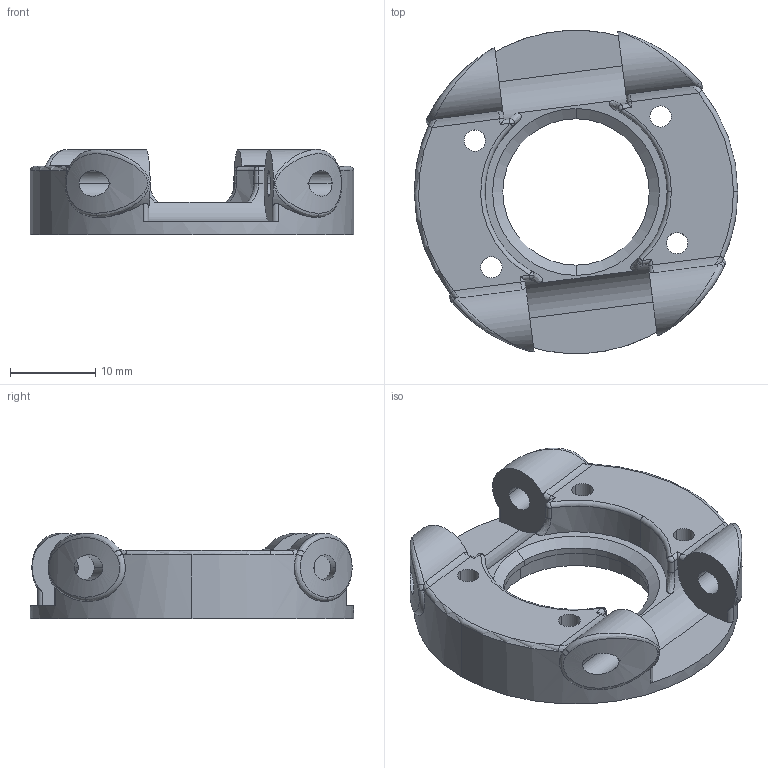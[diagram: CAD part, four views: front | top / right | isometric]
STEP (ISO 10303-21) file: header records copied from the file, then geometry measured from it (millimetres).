
FILE_DESCRIPTION (( 'STEP AP214' ), '1' );
FILE_NAME ('Çàäíèé êóëàê 2.0.STEP', '2019-03-21T13:59:51', ( '' ), ( '' ), 'SwSTEP 2.0', 'SolidWorks 2018', '' );
FILE_SCHEMA (( 'AUTOMOTIVE_DESIGN' ));
Length unit declared in the file: millimetre
Products named in the file (1): Çàäíèé êóëàê 2.0
Bounding box: 38 x 38 x 10 mm (x, y, z)
Volume: 5058.9 mm3; surface area: 3684.4 mm2
Topology: 1 solids, 1 shells, 113 faces, 286 edges, 174 vertices
Faces by surface type: cylinder 60, bspline 20, plane 15, torus 10, sphere 6, cone 2
Entity records: 5439 total; most frequent: CARTESIAN_POINT 2818, ORIENTED_EDGE 564, DIRECTION 516, EDGE_CURVE 282, AXIS2_PLACEMENT_3D 215, VERTEX_POINT 172, EDGE_LOOP 132, CIRCLE 121
